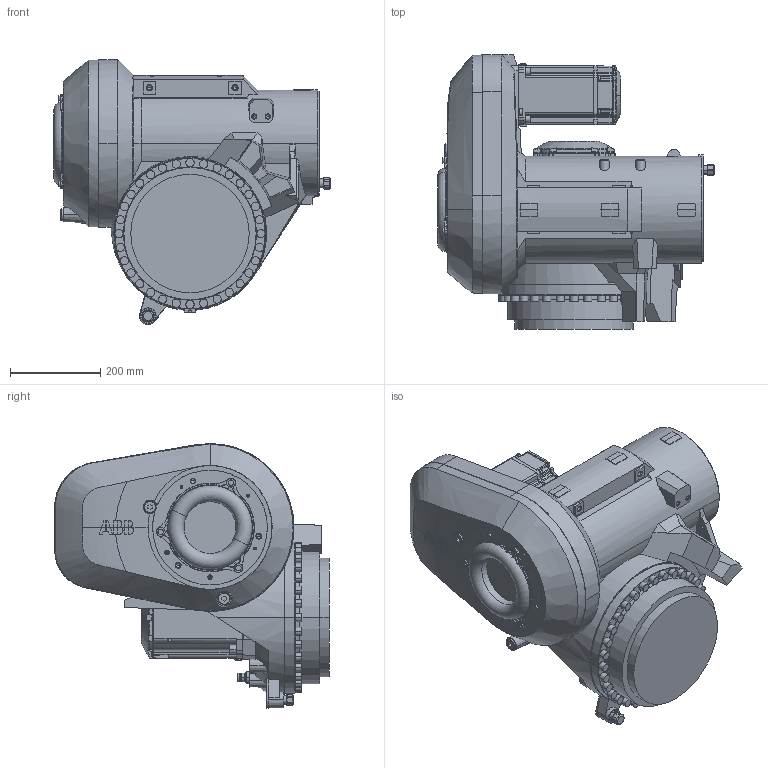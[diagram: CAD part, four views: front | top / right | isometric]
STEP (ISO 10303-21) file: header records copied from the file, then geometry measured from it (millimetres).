
FILE_DESCRIPTION (( 'STEP AP214' ), '1' );
FILE_NAME ('IRB6730-LID_190kg-310_OC_00_LINK03_CAD.step', '2026-05-26T09:17:02', ( '' ), ( '' ), 'SwSTEP 2.0', 'SolidWorks 2024', '' );
FILE_SCHEMA (( 'AUTOMOTIVE_DESIGN' ));
Length unit declared in the file: millimetre
Products named in the file (1): IRB6730-LID_190kg-310_OC_00_LINK03_CAD
Bounding box: 615 x 610 x 588.32 mm (x, y, z)
Volume: 55807515.6 mm3; surface area: 1855236.4 mm2
Topology: 1 solids, 5 shells, 1861 faces, 4877 edges, 3074 vertices
Faces by surface type: plane 890, cylinder 441, cone 352, bspline 89, torus 75, sphere 14
Entity records: 90619 total; most frequent: CARTESIAN_POINT 26050, ORIENTED_EDGE 9650, DIRECTION 8743, EDGE_CURVE 4825, AXIS2_PLACEMENT_3D 3245, VERTEX_POINT 3074, LINE 2253, VECTOR 2253
